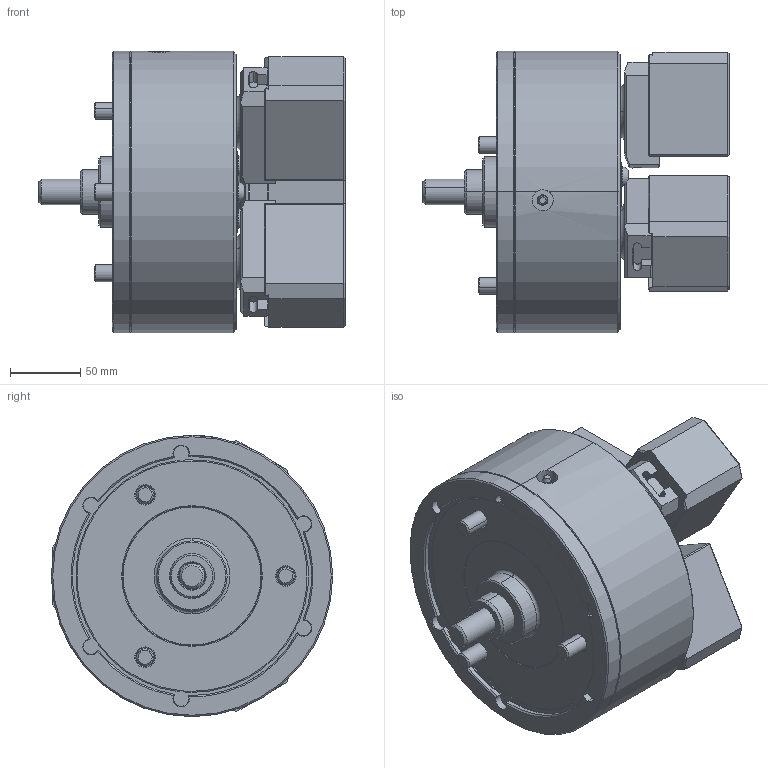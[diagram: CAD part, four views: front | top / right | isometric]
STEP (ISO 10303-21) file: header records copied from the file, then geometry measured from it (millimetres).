
FILE_DESCRIPTION (( 'STEP AP214' ), '1' );
FILE_NAME ('PW-08_CL_ID.STEP', '2019-10-16T09:41:07', ( '' ), ( '' ), 'SwSTEP 2.0', 'SolidWorks 2017', '' );
FILE_SCHEMA (( 'AUTOMOTIVE_DESIGN' ));
Length unit declared in the file: millimetre
Products named in the file (5): PW-08_CL_ID; 61P322995; 0030112020; 結合_ID; 61P420336
Assembly tree (13 placements, depth 2):
  PW-08_CL_ID
    61P322995  x3
    61P420336  x3
    0030112020  x6
    結合_ID
Bounding box: 217.66 x 200 x 200 mm (x, y, z)
Volume: 3460553.8 mm3; surface area: 315462.3 mm2
Topology: 13 solids, 14 shells, 1766 faces, 4369 edges, 2740 vertices
Faces by surface type: plane 859, cone 304, cylinder 275, bspline 265, torus 63
Entity records: 54450 total; most frequent: CARTESIAN_POINT 20989, ORIENTED_EDGE 7364, DIRECTION 6000, EDGE_CURVE 3682, VERTEX_POINT 2337, AXIS2_PLACEMENT_3D 2003, VECTOR 1994, LINE 1994
